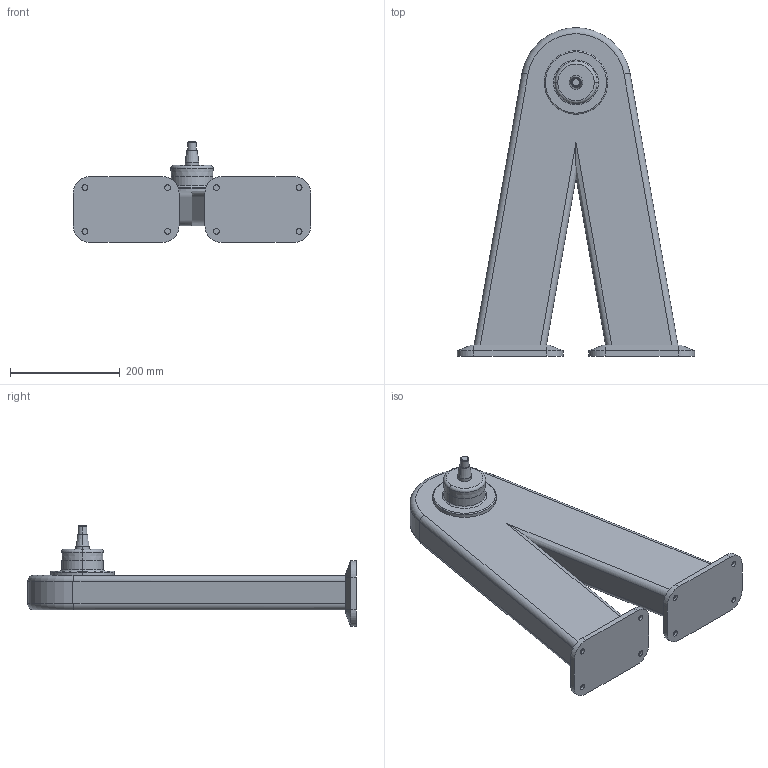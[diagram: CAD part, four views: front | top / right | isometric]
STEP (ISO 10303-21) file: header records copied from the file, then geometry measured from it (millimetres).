
FILE_DESCRIPTION (( 'STEP AP214' ), '1' );
FILE_NAME ('WP850_500.STEP', '2014-09-08T12:57:17', ( '' ), ( '' ), 'SwSTEP 2.0', 'SolidWorks 2014', '' );
FILE_SCHEMA (( 'AUTOMOTIVE_DESIGN' ));
Length unit declared in the file: millimetre
Products named in the file (1): WP850_500
Bounding box: 433.35 x 600 x 183.98 mm (x, y, z)
Volume: 9583132.4 mm3; surface area: 478733.4 mm2
Topology: 1 solids, 1 shells, 101 faces, 221 edges, 136 vertices
Faces by surface type: cylinder 41, plane 38, cone 14, torus 8
Entity records: 2795 total; most frequent: DIRECTION 513, CARTESIAN_POINT 489, ORIENTED_EDGE 442, EDGE_CURVE 221, AXIS2_PLACEMENT_3D 200, VERTEX_POINT 136, EDGE_LOOP 115, LINE 113
